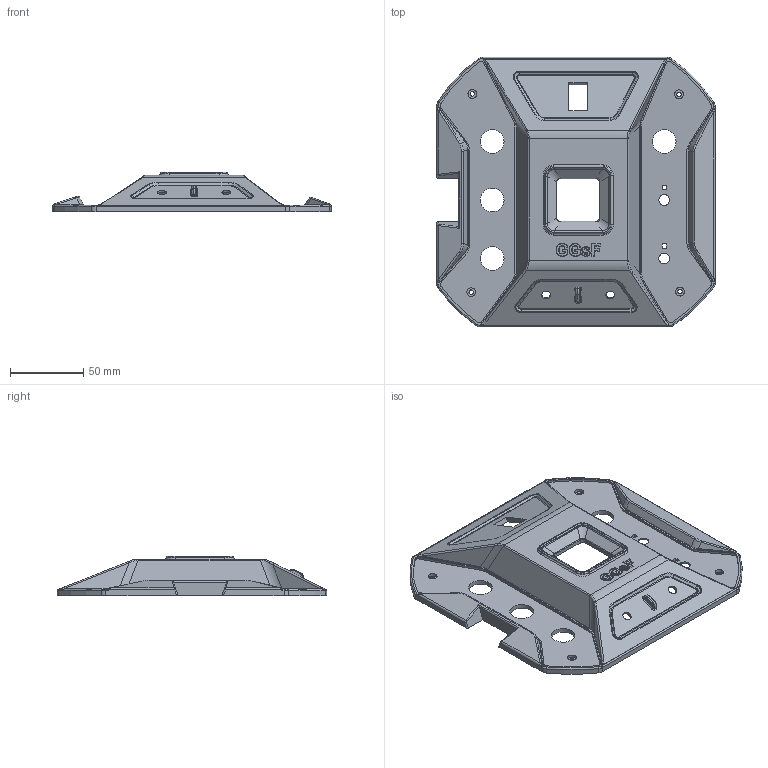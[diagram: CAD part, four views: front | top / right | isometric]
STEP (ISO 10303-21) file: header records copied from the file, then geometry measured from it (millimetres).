
FILE_DESCRIPTION(/* description */ (''),/* implementation_level */ '2;1');
FILE_NAME(/* name */ 'LAST_BASE 01.stp',/* time_stamp */ '2025-11-19T23:11:08+09:00',/* author */ (''),/* organization */ (''),/* preprocessor_version */ 'ST-DEVELOPER v11',/* originating_system */ 'SIEMENS PLM Software NX 7.5',/* authorisation */ '');
FILE_SCHEMA (('CONFIG_CONTROL_DESIGN'));
Length unit declared in the file: millimetre
Products named in the file (1): gyun8741ysfn
Bounding box: 190.4 x 184.4 x 27 mm (x, y, z)
Volume: 135979.7 mm3; surface area: 83086.2 mm2
Topology: 1 solids, 1 shells, 727 faces, 1808 edges, 1112 vertices
Faces by surface type: cylinder 258, plane 251, bspline 144, torus 36, extrusion 22, cone 16
Full cylindrical faces by diameter (mm): 2.9 x4, 3 x4, 6 x6, 7.4 x2, 12 x2, 16.2 x4
Entity records: 25761 total; most frequent: CARTESIAN_POINT 9269, ORIENTED_EDGE 3536, DIRECTION 3223, EDGE_CURVE 1768, AXIS2_PLACEMENT_3D 1186, VERTEX_POINT 1096, VECTOR 851, LINE 829
